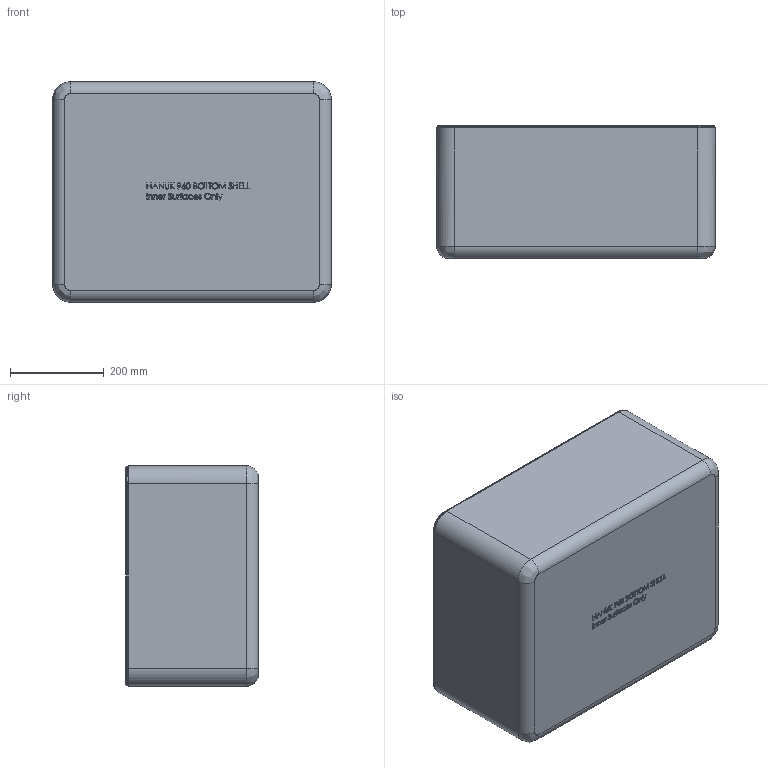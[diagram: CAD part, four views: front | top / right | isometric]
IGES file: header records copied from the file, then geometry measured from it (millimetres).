
Start section: SolidWorks IGES file using analytic representation for surfaces
Global section: file name: Z:\Share\NANUK\Solidworks\3D\Cases\960\4 - 3D FILES\4 - Inner Surfaces\960_Bottom_INNER SURFACES.IGS; native system: SolidWorks 2018; preprocessor: SolidWorks 2018; author: scharria; date: 200121.092923; units: inch
Bounding box: 594.98 x 283.79 x 470.49 mm (x, y, z)
Surface area: 1624470.8 mm2 (no closed solid volume)
Topology: 0 solids, 0 shells, 1012 faces, 13465 edges, 13455 vertices
Faces by surface type: bspline 803, revolution 209
